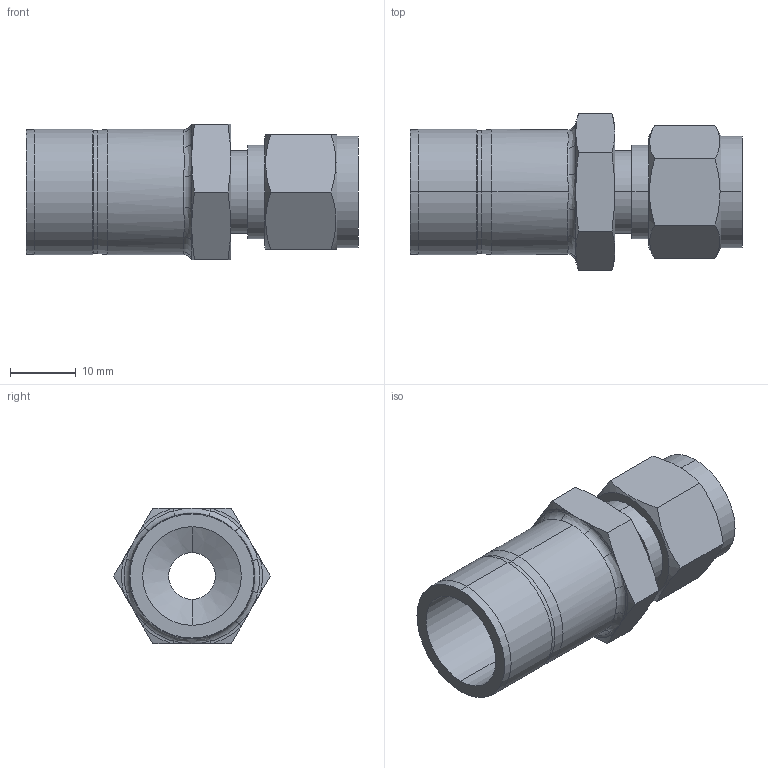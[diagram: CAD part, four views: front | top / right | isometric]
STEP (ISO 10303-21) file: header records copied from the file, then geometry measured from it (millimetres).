
FILE_DESCRIPTION (( 'STEP AP203' ), '1' );
FILE_NAME ('DRE06-12 SS.STEP', '2009-09-08T08:38:06', ( ' ' ), ( '' ), 'SwSTEP 2.0', 'SolidWorks 2008', '' );
FILE_SCHEMA (( 'CONFIG_CONTROL_DESIGN' ));
Length unit declared in the file: millimetre
Products named in the file (1): DRE06-12 SS
Bounding box: 50.5 x 23.83 x 20.64 mm (x, y, z)
Volume: 7493.6 mm3; surface area: 5750.1 mm2
Topology: 1 solids, 1 shells, 78 faces, 176 edges, 104 vertices
Faces by surface type: cone 24, plane 24, cylinder 18, bspline 6, torus 6
Entity records: 2601 total; most frequent: CARTESIAN_POINT 845, ORIENTED_EDGE 352, DIRECTION 348, EDGE_CURVE 176, AXIS2_PLACEMENT_3D 147, VERTEX_POINT 104, EDGE_LOOP 84, ADVANCED_FACE 78
